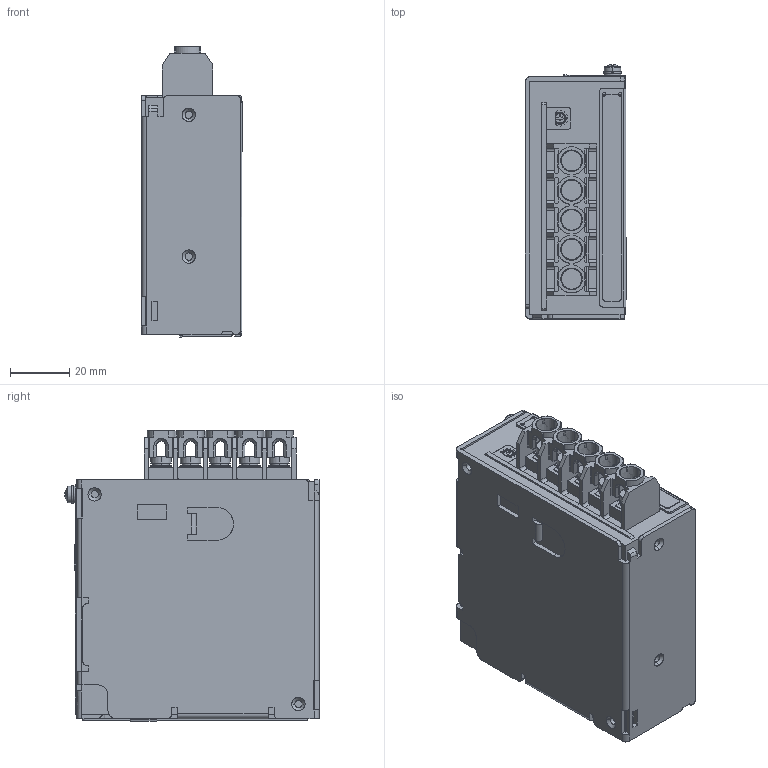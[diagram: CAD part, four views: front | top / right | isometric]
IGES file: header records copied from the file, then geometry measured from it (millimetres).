
Start section: SolidWorks IGES file using analytic representation for surfaces
Global section: file name: C:\rws50b_outline3.IGS; native system: SolidWorks 2013; preprocessor: SolidWorks 2013; author: a008167; date: 140725.084600; units: millimetre
Bounding box: 34.2 x 86.05 x 98.47 mm (x, y, z)
Surface area: 31784.6 mm2 (no closed solid volume)
Topology: 0 solids, 0 shells, 1050 faces, 12796 edges, 12788 vertices
Faces by surface type: bspline 633, revolution 417
